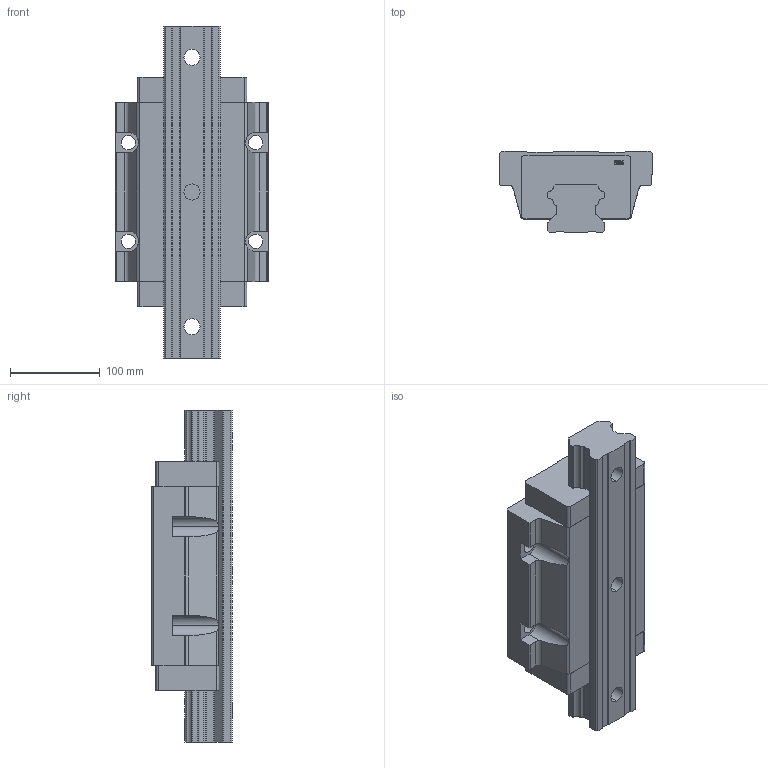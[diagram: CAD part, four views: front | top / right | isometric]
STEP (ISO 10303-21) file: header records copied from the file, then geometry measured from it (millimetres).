
FILE_DESCRIPTION (( 'STEP AP214' ), '1' );
FILE_NAME ('7.1015 Lineaarikelkka HTW65HA.STEP', '2026-03-11T11:24:33', ( '' ), ( '' ), 'SwSTEP 2.0', 'SolidWorks 2025', '' );
FILE_SCHEMA (( 'AUTOMOTIVE_DESIGN' ));
Length unit declared in the file: millimetre
Products named in the file (3): 7.1015 Lineaarikelkka HTW65HA; HTW65; HTR65
Assembly tree (2 placements, depth 2):
  7.1015 Lineaarikelkka HTW65HA
    HTW65
    HTR65
Bounding box: 170 x 90 x 370 mm (x, y, z)
Volume: 3162216.5 mm3; surface area: 266952.8 mm2
Topology: 2 solids, 2 shells, 830 faces, 2356 edges, 1568 vertices
Faces by surface type: plane 707, bspline 62, cylinder 61
Entity records: 38880 total; most frequent: CARTESIAN_POINT 8383, ORIENTED_EDGE 4712, DIRECTION 3880, EDGE_CURVE 2356, LINE 2086, VECTOR 2086, VERTEX_POINT 1568, AXIS2_PLACEMENT_3D 897
